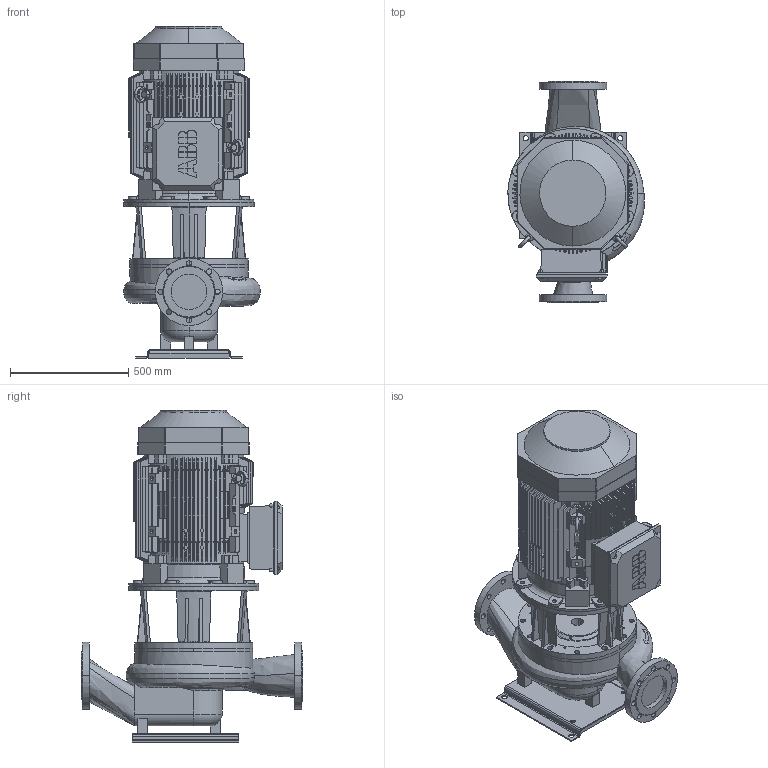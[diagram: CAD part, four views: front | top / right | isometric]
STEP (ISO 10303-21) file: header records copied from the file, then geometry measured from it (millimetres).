
FILE_DESCRIPTION(('STEP AP214'),'1');
FILE_NAME('export.stp','2018-06-06T11:55:20',(' '),(' '),'Spatial InterOp 3D',' ',' ');
FILE_SCHEMA(('AUTOMOTIVE_DESIGN { 1 0 10303 214 1 1 1 1 }'));
Length unit declared in the file: millimetre
Products named in the file (20): W_L150S4SD550-IEC; V_TLL125SAL1250; P101335; IEC-250; 3GZV183002-193006-183002-183999_; -simplified-simplified_parts_Fan; -simplified-simplified_parts_Ter; 3GZV244000-310999-294000-299999_; 3GZV100000-112999-101007-112999_; -simplified-simplified_parts_Sta; -simplified-simplified_parts_M32; ABBstandard-9ADA_Lifting_Eye_9AD; W_L150S_withBase; W_L_150S_pump_new; P100464; P100462; P101191
Assembly tree (21 placements, depth 4):
  W_L150S4SD550-IEC
    V_TLL125SAL1250
    P101335
    IEC-250
      3GZV183002-193006-183002-183999_
      -simplified-simplified_parts_Fan
      -simplified-simplified_parts_Ter
      -simplified-simplified_parts_Ter
      3GZV244000-310999-294000-299999_
      3GZV244000-310999-294000-299999_
      3GZV244000-310999-294000-299999_
      3GZV100000-112999-101007-112999_
      -simplified-simplified_parts_Sta
      -simplified-simplified_parts_M32
      ABBstandard-9ADA_Lifting_Eye_9AD  x2
    W_L150S_withBase
      W_L_150S_pump_new
      P100464
        P100462
        P101191  x2
Bounding box: 575.72 x 935 x 1403.16 mm (x, y, z)
Volume: 190670186.5 mm3; surface area: 8475321 mm2
Topology: 15 solids, 209 shells, 2114 faces, 6346 edges, 4451 vertices
Faces by surface type: bspline 1675, cylinder 219, plane 152, torus 42, cone 26
Entity records: 113572 total; most frequent: CARTESIAN_POINT 38416, ORIENTED_EDGE 11252, EDGE_CURVE 6081, STYLED_ITEM 6058, PRESENTATION_STYLE_ASSIGNMENT 6058, COLOUR_RGB 6058, VERTEX_POINT 4280, CURVE_STYLE 3987
